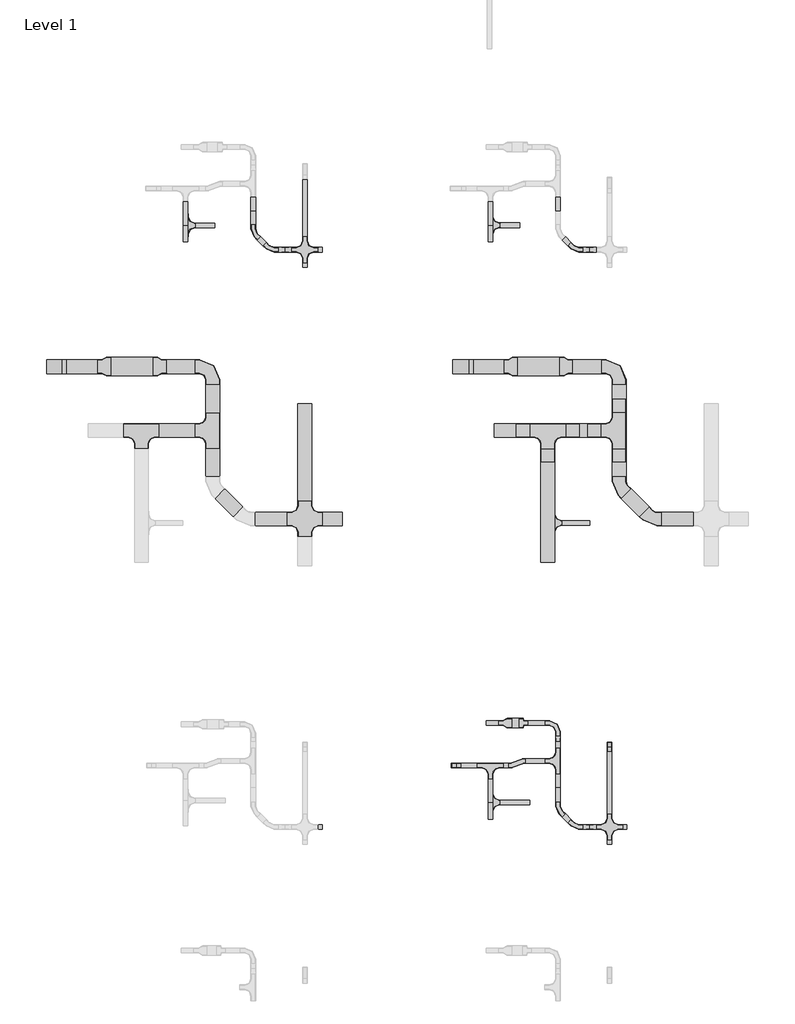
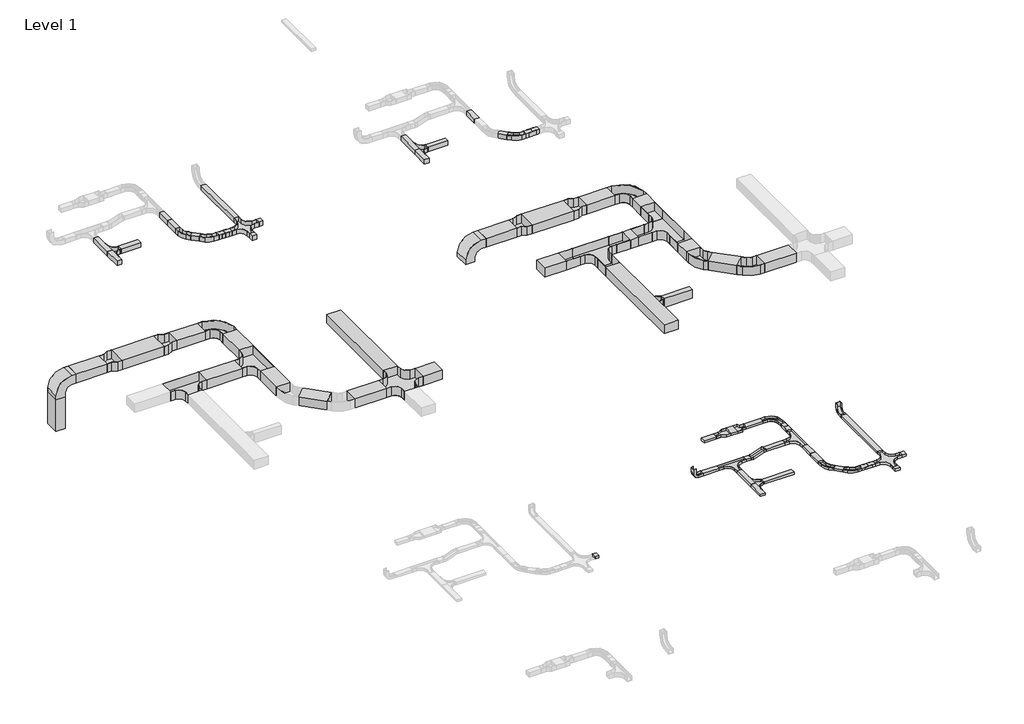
# One storey, part 6 of 7: 60 cable carrier segments, 44 cable carrier fittings.
"""IFC4 building model written with IfcOpenShell, lengths in millimetres."""

from ifc_helpers import new_model, si_unit, frame, origin, origin_with_axes, place, context, project, spatial, polyline, outline, extrude, transform, mapped, element, save
from components import cable_carrier_fitting_aaacfa07, cable_carrier_fitting_b0ef1419, cable_carrier_fitting_b06f5239, cable_carrier_fitting_c29a8226, cable_carrier_fitting_143960b7, cable_carrier_fitting_a196cc36, cable_carrier_fitting_4de17e9c, cable_carrier_fitting_7e9f8960, cable_carrier_fitting_9eb58628, cable_carrier_fitting_37f5b24e, cable_carrier_fitting_02b181c7, cable_carrier_fitting_d4cb8d73, cable_carrier_fitting_f591b558, cable_carrier_fitting_a9251f7c, cable_carrier_fitting_6664680e, cable_carrier_fitting_eaf42c59, cable_carrier_fitting_cb4cf4fc, cable_carrier_fitting_d9c8c3b4, cable_carrier_fitting_4019ad99, cable_carrier_fitting_a17deca8, cable_carrier_fitting_91e97af7, cable_carrier_fitting_0d8af748, cable_carrier_fitting_106d96d6, rkh50_caab6538

model = new_model("IFC4")

# Units and contexts
model_context = context("Model", 3, world=origin())
ifc_project = project(units=[si_unit("LENGTHUNIT", "METRE", prefix="MILLI")], contexts=[model_context])

# Site, building, storey
site = spatial("IfcSite", under=ifc_project)
building = spatial("IfcBuilding", under=site)
storey = spatial("IfcBuildingStorey", under=building, Name="Level 1", Elevation=0.0)

# Cable carrier fittings
placement = place(None, origin())
cable_carrier_fitting_shape = cable_carrier_fitting_aaacfa07(model_context)
element("IfcCableCarrierFitting", 1, ObjectType="BAKS_Plate_connector : LZCH100", at=placement, inside=storey, context=model_context, shape_type="MappedRepresentation", body=[
    mapped(cable_carrier_fitting_shape, transform((-16681.6917019, 62708.6669458, 50.0), x_axis=(-1.0, 0.0, 0.0), y_axis=(0.0, -1.0, 0.0), z_axis=(0.0, 0.0, 1.0))),
])
element("IfcCableCarrierFitting", 2, ObjectType="BAKS_Plate_connector : LZCH100", at=placement, inside=storey, context=model_context, shape_type="MappedRepresentation", body=[
    mapped(cable_carrier_fitting_shape, transform((-10081.6917019, 62708.6669458, 50.0), x_axis=(-1.0, 0.0, 0.0), y_axis=(0.0, -1.0, 0.0), z_axis=(0.0, 0.0, 1.0))),
])
cable_carrier_fitting_2_shape = cable_carrier_fitting_b0ef1419(model_context)
element("IfcCableCarrierFitting", 3, ObjectType="BAKS_Plate_connector : LZCH50", at=placement, inside=storey, context=model_context, shape_type="MappedRepresentation", body=[
    mapped(cable_carrier_fitting_2_shape, transform((-10770.1659964, 52049.0221963, 50.0), x_axis=(0.0, -1.0, 0.0), y_axis=(1.0, 0.0, 0.0), z_axis=(0.0, 0.0, 1.0))),
])
element("IfcCableCarrierFitting", 4, ObjectType="BAKS_Plate_connector : LZCH50", at=placement, inside=storey, context=model_context, shape_type="MappedRepresentation", body=[
    mapped(cable_carrier_fitting_2_shape, transform((-10081.6917019, 50208.6669458, 50.0), x_axis=(-1.0, 0.0, 0.0), y_axis=(0.0, -1.0, 0.0), z_axis=(0.0, 0.0, 1.0))),
])
cable_carrier_fitting_3_shape = cable_carrier_fitting_b06f5239(model_context)
element("IfcCableCarrierFitting", 5, ObjectType="BAKS_Tee_TKZD : TKZDPH200", at=placement, inside=storey, context=model_context, shape_type="MappedRepresentation", body=[
    mapped(cable_carrier_fitting_3_shape, transform((-10842.1461338, 56790.6717205, 0.0), x_axis=(0.0, 1.0, 0.0), y_axis=(-1.0, 0.0, 0.0), z_axis=(0.0, 0.0, 1.0))),
])
cable_carrier_fitting_4_shape = cable_carrier_fitting_c29a8226(model_context)
element("IfcCableCarrierFitting", 6, ObjectType="BAKS_Tee_TKZD : TKZDPH50", at=placement, inside=storey, context=model_context, shape_type="MappedRepresentation", body=[
    mapped(cable_carrier_fitting_4_shape, transform((-12185.25983, 50739.4574237, 50.0), x_axis=(0.0, 1.0, 0.0), y_axis=(-1.0, 0.0, 0.0), z_axis=(0.0, 0.0, 1.0))),
])
cable_carrier_fitting_5_shape = cable_carrier_fitting_143960b7(model_context)
element("IfcCableCarrierFitting", 7, ObjectType="BAKS_Tee_TKZD : TKZDPH100", at=placement, inside=storey, context=model_context, shape_type="MappedRepresentation", body=[
    mapped(cable_carrier_fitting_5_shape, transform((-18785.25983, 63236.7469669, 50.0), x_axis=(0.0, 1.0, 0.0), y_axis=(-1.0, 0.0, 0.0), z_axis=(0.0, 0.0, 1.0))),
])
element("IfcCableCarrierFitting", 8, ObjectType="BAKS_Tee_TKZD : TKZDPH100", at=placement, inside=storey, context=model_context, shape_type="MappedRepresentation", body=[
    mapped(cable_carrier_fitting_5_shape, transform((-12185.25983, 63237.8311496, 50.0), x_axis=(0.0, 1.0, 0.0), y_axis=(-1.0, 0.0, 0.0), z_axis=(0.0, 0.0, 1.0))),
])
cable_carrier_fitting_6_shape = cable_carrier_fitting_a196cc36(model_context)
element("IfcCableCarrierFitting", 9, ObjectType="BAKS_Tee_TKZ : TKZCH50", at=placement, inside=storey, context=model_context, shape_type="MappedRepresentation", body=[
    mapped(cable_carrier_fitting_6_shape, transform((-12235.25983, 51536.0286879, 50.0), x_axis=(1.0, 0.0, 0.0), y_axis=(0.0, 1.0, 0.0), z_axis=(0.0, 0.0, 1.0))),
])
element("IfcCableCarrierFitting", 10, ObjectType="BAKS_Tee_TKZ : TKZCH50", at=placement, inside=storey, context=model_context, shape_type="MappedRepresentation", body=[
    mapped(cable_carrier_fitting_6_shape, transform((-10770.1659964, 51636.0286879, 50.0), x_axis=(0.0, -1.0, 0.0), y_axis=(1.0, 0.0, 0.0), z_axis=(0.0, 0.0, 1.0))),
])
cable_carrier_fitting_7_shape = cable_carrier_fitting_4de17e9c(model_context)
element("IfcCableCarrierFitting", 11, ObjectType="BAKS_Cross-section_CZKZ : CZKZCH50", at=placement, inside=storey, context=model_context, shape_type="MappedRepresentation", body=[
    mapped(cable_carrier_fitting_7_shape, transform((-9653.0791495, 50208.6669458, 50.0), x_axis=(-1.0, 0.0, 0.0), y_axis=(0.0, -1.0, 0.0), z_axis=(0.0, 0.0, 1.0))),
])
cable_carrier_fitting_8_shape = cable_carrier_fitting_7e9f8960(model_context)
element("IfcCableCarrierFitting", 12, ObjectType="BAKS_Cross-section_CZKZ : CZKZPH100", at=placement, inside=storey, context=model_context, shape_type="MappedRepresentation", body=[
    mapped(cable_carrier_fitting_8_shape, transform((-16253.0791495, 62708.6669458, 50.0), x_axis=(1.0, 0.0, 0.0), y_axis=(0.0, 1.0, 0.0), z_axis=(0.0, 0.0, 1.0))),
])
cable_carrier_fitting_9_shape = cable_carrier_fitting_9eb58628(model_context)
element("IfcCableCarrierFitting", 13, ObjectType="BAKS_Reduction-symmetrical_RKZ : RKZCH50", at=placement, inside=storey, context=model_context, shape_type="MappedRepresentation", body=[
    mapped(cable_carrier_fitting_9_shape, transform((-11765.6659964, 52457.0157047, 50.0), x_axis=(-1.0, 0.0, 0.0), y_axis=(0.0, -1.0, 0.0), z_axis=(0.0, 0.0, 1.0))),
])
cable_carrier_fitting_10_shape = cable_carrier_fitting_37f5b24e(model_context)
element("IfcCableCarrierFitting", 14, ObjectType="BAKS_Bypass_horizontal_left_OPZL : OPZLCH50", at=placement, inside=storey, context=model_context, shape_type="MappedRepresentation", body=[
    mapped(cable_carrier_fitting_10_shape, transform((-11655.25983, 51586.0286879, 25.0), x_axis=(1.0, 0.0, 0.0), y_axis=(0.0, 1.0, 0.0), z_axis=(0.0, 0.0, 1.0))),
])
cable_carrier_fitting_11_shape = cable_carrier_fitting_02b181c7(model_context)
element("IfcCableCarrierFitting", 15, ObjectType="BAKS_Elbow_KKZ : KKZC/KKZMC...H50", at=placement, inside=storey, context=model_context, shape_type="MappedRepresentation", body=[
    mapped(cable_carrier_fitting_11_shape, transform((-10399.0048312, 50208.6669458, 50.0), x_axis=(0.7071067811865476, -0.7071067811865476, 0.0), y_axis=(0.7071067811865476, 0.7071067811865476, 0.0), z_axis=(0.0, 0.0, 1.0))),
])
element("IfcCableCarrierFitting", 16, ObjectType="BAKS_Elbow_KKZ : KKZC/KKZMC...H50", at=placement, inside=storey, context=model_context, shape_type="MappedRepresentation", body=[
    mapped(cable_carrier_fitting_11_shape, transform((-10770.1659964, 50579.8281111, 50.0), x_axis=(0.0, -1.0, 0.0), y_axis=(1.0, 0.0, 0.0), z_axis=(0.0, 0.0, 1.0))),
])
cable_carrier_fitting_12_shape = cable_carrier_fitting_d4cb8d73(model_context)
element("IfcCableCarrierFitting", 17, ObjectType="BAKS_Elbow_KKZ : KKZP/KKZMP...H100", at=placement, inside=storey, context=model_context, shape_type="MappedRepresentation", body=[
    mapped(cable_carrier_fitting_12_shape, transform((-16999.0048312, 62708.6669458, 50.0), x_axis=(0.7071067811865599, -0.7071067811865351, 0.0), y_axis=(0.7071067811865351, 0.7071067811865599, 0.0), z_axis=(0.0, 0.0, 1.0))),
])
element("IfcCableCarrierFitting", 18, ObjectType="BAKS_Elbow_KKZ : KKZP/KKZMP...H100", at=placement, inside=storey, context=model_context, shape_type="MappedRepresentation", body=[
    mapped(cable_carrier_fitting_12_shape, transform((-17370.1659964, 63079.8281111, 50.0), x_axis=(0.0, -1.0, 0.0), y_axis=(1.0, 0.0, 0.0), z_axis=(0.0, 0.0, 1.0))),
])
element("IfcCableCarrierFitting", 19, ObjectType="BAKS_Elbow_KKZ : KKZC/KKZMC...H100", at=placement, inside=storey, context=model_context, shape_type="MappedRepresentation", body=[
    mapped(cable_carrier_fitting_12_shape, transform((-10399.0048312, 62708.6669458, 50.0), x_axis=(0.7071067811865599, -0.7071067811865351, 0.0), y_axis=(0.7071067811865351, 0.7071067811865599, 0.0), z_axis=(0.0, 0.0, 1.0))),
])
cable_carrier_fitting_13_shape = cable_carrier_fitting_f591b558(model_context)
element("IfcCableCarrierFitting", 20, ObjectType="BAKS_Elbow_KKZ : KKZC/KKZMC...H50", at=placement, inside=storey, context=model_context, shape_type="MappedRepresentation", body=[
    mapped(cable_carrier_fitting_13_shape, transform((-10770.1659964, 52457.0157047, 50.0), x_axis=(0.0, 1.0, 0.0), y_axis=(-1.0, 0.0, 0.0), z_axis=(0.0, 0.0, 1.0))),
])
cable_carrier_fitting_14_shape = cable_carrier_fitting_a9251f7c(model_context)
element("IfcCableCarrierFitting", 21, ObjectType="BAKS_Vertical_bend_int : LZWCH50/LZWMCH50", at=placement, inside=storey, context=model_context, shape_type="MappedRepresentation", body=[
    mapped(cable_carrier_fitting_14_shape, transform((-13052.5998175, 51536.0286879, 50.0), x_axis=(-1.0, 0.0, 0.0), y_axis=(0.0, 0.0, 1.0), z_axis=(0.0, 1.0, 0.0))),
])
element("IfcCableCarrierFitting", 22, ObjectType="BAKS_Vertical_bend_int : LZWCH50/LZWMCH50", at=placement, inside=storey, context=model_context, shape_type="MappedRepresentation", body=[
    mapped(cable_carrier_fitting_14_shape, transform((-9653.0791495, 52018.5286879, 50.0), x_axis=(0.0, 1.0, 0.0), y_axis=(0.0, 0.0, 1.0), z_axis=(1.0, 0.0, 0.0))),
])
cable_carrier_fitting_15_shape = cable_carrier_fitting_6664680e(model_context)
element("IfcCableCarrierFitting", 23, ObjectType="BAKS_Cross-section_CZKZ : CZKZPH200", at=placement, inside=storey, context=model_context, shape_type="MappedRepresentation", body=[
    mapped(cable_carrier_fitting_15_shape, transform((-16253.0791495, 56877.2563463, 50.0), x_axis=(1.0, 0.0, 0.0), y_axis=(0.0, 1.0, 0.0), z_axis=(0.0, 0.0, 1.0))),
])
cable_carrier_fitting_16_shape = cable_carrier_fitting_eaf42c59(model_context)
element("IfcCableCarrierFitting", 24, ObjectType="BAKS_Elbow_KKZ : KKZP/KKZMP...H200", at=placement, inside=storey, context=model_context, shape_type="MappedRepresentation", body=[
    mapped(cable_carrier_fitting_16_shape, transform((-18247.1461338, 60177.2890583, 50.0), x_axis=(0.0, 1.0, 0.0), y_axis=(-1.0, 0.0, 0.0), z_axis=(0.0, 0.0, 1.0))),
])
cable_carrier_fitting_17_shape = cable_carrier_fitting_cb4cf4fc(model_context)
element("IfcCableCarrierFitting", 25, ObjectType="BAKS_Reduction-symmetrical_RKZ : RKZPH200", at=placement, inside=storey, context=model_context, shape_type="MappedRepresentation", body=[
    mapped(cable_carrier_fitting_17_shape, transform((-19247.1461338, 60177.2890583, 50.0), x_axis=(-1.0, 0.0, 0.0), y_axis=(0.0, -1.0, 0.0), z_axis=(0.0, 0.0, 1.0))),
])
cable_carrier_fitting_18_shape = cable_carrier_fitting_d9c8c3b4(model_context)
element("IfcCableCarrierFitting", 26, ObjectType="BAKS_Reduction-symmetrical_RKZ : RKZPH200", at=placement, inside=storey, context=model_context, shape_type="MappedRepresentation", body=[
    mapped(cable_carrier_fitting_18_shape, transform((-20447.1461338, 60177.2890583, 50.0), x_axis=(-1.0, 0.0, 0.0), y_axis=(0.0, -1.0, 0.0), z_axis=(0.0, 0.0, 1.0))),
])
cable_carrier_fitting_19_shape = cable_carrier_fitting_4019ad99(model_context)
element("IfcCableCarrierFitting", 27, ObjectType="BAKS_Vertical_bend_int : LZWPH200/LZWMPH200", at=placement, inside=storey, context=model_context, shape_type="MappedRepresentation", body=[
    mapped(cable_carrier_fitting_19_shape, transform((-21747.1461338, 60177.2890583, 50.0), x_axis=(-1.0, 0.0, 0.0), y_axis=(0.0, 0.0, -1.0), z_axis=(0.0, -1.0, 0.0))),
])
element("IfcCableCarrierFitting", 28, ObjectType="BAKS_Vertical_bend_int : LZWPH200/LZWMPH200", at=placement, inside=storey, context=model_context, shape_type="MappedRepresentation", body=[
    mapped(cable_carrier_fitting_19_shape, transform((-12947.1461338, 60177.2890583, 50.0), x_axis=(-1.0, 0.0, 0.0), y_axis=(0.0, 0.0, -1.0), z_axis=(0.0, -1.0, 0.0))),
])
cable_carrier_fitting_20_shape = cable_carrier_fitting_a17deca8(model_context)
element("IfcCableCarrierFitting", 29, ObjectType="BAKS_Tee_TKZ : TKZPH200", at=placement, inside=storey, context=model_context, shape_type="MappedRepresentation", body=[
    mapped(cable_carrier_fitting_20_shape, transform((-18247.1461338, 58792.3500248, 50.0), x_axis=(0.0, -1.0, 0.0), y_axis=(1.0, 0.0, 0.0), z_axis=(0.0, 0.0, 1.0))),
])
element("IfcCableCarrierFitting", 30, ObjectType="BAKS_Tee_TKZ : TKZPH200", at=placement, inside=storey, context=model_context, shape_type="MappedRepresentation", body=[
    mapped(cable_carrier_fitting_20_shape, transform((-19792.1461338, 58792.3500248, 50.0), x_axis=(1.0, 0.0, 0.0), y_axis=(0.0, 1.0, 0.0), z_axis=(0.0, 0.0, 1.0))),
])
cable_carrier_fitting_21_shape = cable_carrier_fitting_91e97af7(model_context)
element("IfcCableCarrierFitting", 31, ObjectType="BAKS_Elbow_KKZ : KKZC/KKZMC...H200", at=placement, inside=storey, context=model_context, shape_type="MappedRepresentation", body=[
    mapped(cable_carrier_fitting_21_shape, transform((-8747.1134218, 56877.2563463, 50.0), x_axis=(0.7071067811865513, -0.7071067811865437, 0.0), y_axis=(0.7071067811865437, 0.7071067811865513, 0.0), z_axis=(0.0, 0.0, 1.0))),
])
element("IfcCableCarrierFitting", 32, ObjectType="BAKS_Elbow_KKZ : KKZC/KKZMC...H200", at=placement, inside=storey, context=model_context, shape_type="MappedRepresentation", body=[
    mapped(cable_carrier_fitting_21_shape, transform((-9447.1461338, 57577.2890583, 50.0), x_axis=(0.0, -1.0, 0.0), y_axis=(1.0, 0.0, 0.0), z_axis=(0.0, 0.0, 1.0))),
])
element("IfcCableCarrierFitting", 33, ObjectType="BAKS_Elbow_KKZ : KKZC/KKZMC...H200", at=placement, inside=storey, context=model_context, shape_type="MappedRepresentation", body=[
    mapped(cable_carrier_fitting_16_shape, transform((-9447.1461338, 60177.2890583, 50.0), x_axis=(0.0, 1.0, 0.0), y_axis=(-1.0, 0.0, 0.0), z_axis=(0.0, 0.0, 1.0))),
])
cable_carrier_fitting_22_shape = cable_carrier_fitting_0d8af748(model_context)
element("IfcCableCarrierFitting", 34, ObjectType="BAKS_Tee_TKZ : TKZCH200", at=placement, inside=storey, context=model_context, shape_type="MappedRepresentation", body=[
    mapped(cable_carrier_fitting_22_shape, transform((-9447.1461338, 58792.3500248, 50.0), x_axis=(0.0, -1.0, 0.0), y_axis=(1.0, 0.0, 0.0), z_axis=(0.0, 0.0, 1.0))),
])
element("IfcCableCarrierFitting", 35, ObjectType="BAKS_Tee_TKZ : TKZCH200", at=placement, inside=storey, context=model_context, shape_type="MappedRepresentation", body=[
    mapped(cable_carrier_fitting_22_shape, transform((-10992.1461338, 58792.3500248, 50.0), x_axis=(1.0, 0.0, 0.0), y_axis=(0.0, 1.0, 0.0), z_axis=(0.0, 0.0, 1.0))),
])
cable_carrier_fitting_23_shape = cable_carrier_fitting_106d96d6(model_context)
element("IfcCableCarrierFitting", 36, ObjectType="BAKS_Reduction-symmetrical_RKZ : RKZCH200", at=placement, inside=storey, context=model_context, shape_type="MappedRepresentation", body=[
    mapped(cable_carrier_fitting_23_shape, transform((-9447.1461338, 59182.3500248, 50.0), x_axis=(0.0, 1.0, 0.0), y_axis=(-1.0, 0.0, 0.0), z_axis=(0.0, 0.0, 1.0))),
])
element("IfcCableCarrierFitting", 37, ObjectType="BAKS_Reduction-symmetrical_RKZ : RKZCH200", at=placement, inside=storey, context=model_context, shape_type="MappedRepresentation", body=[
    mapped(cable_carrier_fitting_23_shape, transform((-9447.1461338, 58402.3500248, 50.0), x_axis=(0.0, -1.0, 0.0), y_axis=(1.0, 0.0, 0.0), z_axis=(0.0, 0.0, 1.0))),
])
element("IfcCableCarrierFitting", 38, ObjectType="BAKS_Reduction-symmetrical_RKZ : RKZCH200", at=placement, inside=storey, context=model_context, shape_type="MappedRepresentation", body=[
    mapped(cable_carrier_fitting_23_shape, transform((-9837.1461338, 58792.3500248, 50.0), x_axis=(-1.0, 0.0, 0.0), y_axis=(0.0, -1.0, 0.0), z_axis=(0.0, 0.0, 1.0))),
])
element("IfcCableCarrierFitting", 39, ObjectType="BAKS_Reduction-symmetrical_RKZ : RKZCH200", at=placement, inside=storey, context=model_context, shape_type="MappedRepresentation", body=[
    mapped(cable_carrier_fitting_23_shape, transform((-11382.1461338, 58792.3500248, 50.0), x_axis=(-1.0, 0.0, 0.0), y_axis=(0.0, -1.0, 0.0), z_axis=(0.0, 0.0, 1.0))),
])
element("IfcCableCarrierFitting", 40, ObjectType="BAKS_Reduction-symmetrical_RKZ : RKZCH200", at=placement, inside=storey, context=model_context, shape_type="MappedRepresentation", body=[
    mapped(cable_carrier_fitting_23_shape, transform((-10602.1461338, 58792.3500248, 50.0), x_axis=(1.0, 0.0, 0.0), y_axis=(0.0, 1.0, 0.0), z_axis=(0.0, 0.0, 1.0))),
])
element("IfcCableCarrierFitting", 41, ObjectType="BAKS_Reduction-symmetrical_RKZ : RKZCH200", at=placement, inside=storey, context=model_context, shape_type="MappedRepresentation", body=[
    mapped(cable_carrier_fitting_23_shape, transform((-10992.1461338, 58402.3500248, 50.0), x_axis=(0.0, -1.0, 0.0), y_axis=(1.0, 0.0, 0.0), z_axis=(0.0, 0.0, 1.0))),
])
element("IfcCableCarrierFitting", 42, ObjectType="BAKS_Reduction-symmetrical_RKZ : RKZCH200", at=placement, inside=storey, context=model_context, shape_type="MappedRepresentation", body=[
    mapped(cable_carrier_fitting_18_shape, transform((-11647.1461338, 60177.2890583, 50.0), x_axis=(-1.0, 0.0, 0.0), y_axis=(0.0, -1.0, 0.0), z_axis=(0.0, 0.0, 1.0))),
])
element("IfcCableCarrierFitting", 43, ObjectType="BAKS_Reduction-symmetrical_RKZ : RKZCH200", at=placement, inside=storey, context=model_context, shape_type="MappedRepresentation", body=[
    mapped(cable_carrier_fitting_17_shape, transform((-10447.1461338, 60177.2890583, 50.0), x_axis=(-1.0, 0.0, 0.0), y_axis=(0.0, -1.0, 0.0), z_axis=(0.0, 0.0, 1.0))),
])
rkh50_shape = rkh50_caab6538(model_context)
element("IfcCableCarrierFitting", 44, ObjectType="BAKS_Reduction-angular_RK : RKH50", at=placement, inside=storey, context=model_context, shape_type="MappedRepresentation", body=[
    mapped(rkh50_shape, transform((-11626.3397935, 52457.0157047, 50.0), x_axis=(1.0, 0.0, 0.0), y_axis=(0.0, 1.0, 0.0), z_axis=(0.0, 0.0, 1.0))),
])

# Cable carrier segments
element("IfcCableCarrierSegment", 45, ObjectType="BAKS - Reinforced cable tray H100 (KZWP)", at=placement, inside=storey, context=model_context, shape_type="SweptSolid", body=[
    extrude(outline(polyline([(-18885.25983, 63746.0286879), (-18785.25983, 63746.0286879), (-18785.25983, 63237.2890583), (-18885.25983, 63237.2890583), (-18885.25983, 63746.0286879)])), origin_with_axes(), (0.0, 0.0, 1.0), 100.0),
])
element("IfcCableCarrierSegment", 46, ObjectType="BAKS - Reinforced cable tray H100 (KZWP)", at=placement, inside=storey, context=model_context, shape_type="SweptSolid", body=[
    extrude(outline(polyline([(-18885.25983, 63236.2048756), (-18785.25983, 63236.2048756), (-18785.25983, 62877.2890583), (-18885.25983, 62877.2890583), (-18885.25983, 63236.2048756)])), origin_with_axes(), (0.0, 0.0, 1.0), 100.0),
])
element("IfcCableCarrierSegment", 47, ObjectType="BAKS - Cable tray H100 (KZC)", at=placement, inside=storey, context=model_context, shape_type="SweptSolid", body=[
    extrude(outline(polyline([(-12285.25983, 63746.0286879), (-12185.25983, 63746.0286879), (-12185.25983, 63238.373241), (-12285.25983, 63238.373241), (-12285.25983, 63746.0286879)])), origin_with_axes(), (0.0, 0.0, 1.0), 100.0),
])
element("IfcCableCarrierSegment", 48, ObjectType="BAKS - Cable tray H100 (KZC)", at=placement, inside=storey, context=model_context, shape_type="SweptSolid", body=[
    extrude(outline(polyline([(-12285.25983, 63237.2890583), (-12185.25983, 63237.2890583), (-12185.25983, 62877.2890583), (-12285.25983, 62877.2890583), (-12285.25983, 63237.2890583)])), origin_with_axes(), (0.0, 0.0, 1.0), 100.0),
])
element("IfcCableCarrierSegment", 49, ObjectType="BAKS - Cable tray with welded connector H50 (KZLC)", at=placement, inside=storey, context=model_context, shape_type="SweptSolid", body=[
    extrude(outline(polyline([(-11626.3397935, 52557.0157047), (-11626.3397935, 52357.0157047), (-11765.6659964, 52357.0157047), (-11765.6659964, 52557.0157047), (-11626.3397935, 52557.0157047)])), frame((0.0, 0.0, 25.0), z_axis=(0.0, 0.0, 1.0), x_axis=(1.0, 0.0, 0.0)), (0.0, 0.0, 1.0), 50.0),
])
element("IfcCableCarrierSegment", 50, ObjectType="BAKS - Cable tray with welded connector H50 (KZLC)", at=placement, inside=storey, context=model_context, shape_type="SweptSolid", body=[
    extrude(outline(polyline([(-12065.6659964, 52507.0157047), (-12065.6659964, 52407.0157047), (-12324.6659964, 52407.0157047), (-12324.6659964, 52507.0157047), (-12065.6659964, 52507.0157047)])), frame((0.0, 0.0, 25.0), z_axis=(0.0, 0.0, 1.0), x_axis=(1.0, 0.0, 0.0)), (0.0, 0.0, 1.0), 50.0),
])
element("IfcCableCarrierSegment", 51, ObjectType="BAKS - Cable tray with welded connector H50 (KZLC)", at=placement, inside=storey, context=model_context, shape_type="SweptSolid", body=[
    extrude(outline(polyline([(-11845.25983, 51586.0286879), (-11845.25983, 51486.0286879), (-11945.25983, 51486.0286879), (-11945.25983, 51586.0286879), (-11845.25983, 51586.0286879)])), frame((0.0, 0.0, 25.0), z_axis=(0.0, 0.0, 1.0), x_axis=(1.0, 0.0, 0.0)), (0.0, 0.0, 1.0), 50.0),
])
element("IfcCableCarrierSegment", 52, ObjectType="BAKS - Cable tray with welded connector H50 (KZLC)", at=placement, inside=storey, context=model_context, shape_type="SweptSolid", body=[
    extrude(outline(polyline([(-12525.25983, 51586.0286879), (-12525.25983, 51486.0286879), (-12867.5998175, 51486.0286879), (-12867.5998175, 51586.0286879), (-12525.25983, 51586.0286879)])), frame((0.0, 0.0, 25.0), z_axis=(0.0, 0.0, 1.0), x_axis=(1.0, 0.0, 0.0)), (0.0, 0.0, 1.0), 50.0),
])
element("IfcCableCarrierSegment", 53, ObjectType="BAKS - Cable tray with welded connector H50 (KZLC)", at=placement, inside=storey, context=model_context, shape_type="SweptSolid", body=[
    extrude(outline(polyline([(-12285.25983, 51246.0286879), (-12185.25983, 51246.0286879), (-12185.25983, 50739.999515), (-12285.25983, 50739.999515), (-12285.25983, 51246.0286879)])), frame((0.0, 0.0, 25.0), z_axis=(0.0, 0.0, 1.0), x_axis=(1.0, 0.0, 0.0)), (0.0, 0.0, 1.0), 50.0),
])
element("IfcCableCarrierSegment", 54, ObjectType="BAKS - Cable tray with welded connector H50 (KZLC)", at=placement, inside=storey, context=model_context, shape_type="SweptSolid", body=[
    extrude(outline(polyline([(-12285.25983, 50738.9153323), (-12185.25983, 50738.9153323), (-12185.25983, 50377.2890583), (-12285.25983, 50377.2890583), (-12285.25983, 50738.9153323)])), frame((0.0, 0.0, 25.0), z_axis=(0.0, 0.0, 1.0), x_axis=(1.0, 0.0, 0.0)), (0.0, 0.0, 1.0), 50.0),
])
element("IfcCableCarrierSegment", 55, ObjectType="BAKS - Reinforced cable tray H100 (KZWP)", at=placement, inside=storey, context=model_context, shape_type="SweptSolid", body=[
    extrude(outline(polyline([(-17420.1659964, 63846.0286879), (-17320.1659964, 63846.0286879), (-17320.1659964, 63553.2786879), (-17420.1659964, 63553.2786879), (-17420.1659964, 63846.0286879)])), origin_with_axes(), (0.0, 0.0, 1.0), 100.0),
])
element("IfcCableCarrierSegment", 56, ObjectType="BAKS - Reinforced cable tray H100 (KZWP)", at=placement, inside=storey, context=model_context, shape_type="SweptSolid", body=[
    extrude(outline(polyline([(-16543.0791495, 62758.6669458), (-16543.0791495, 62658.6669458), (-16681.6917019, 62658.6669458), (-16681.6917019, 62758.6669458), (-16543.0791495, 62758.6669458)])), origin_with_axes(), (0.0, 0.0, 1.0), 100.0),
])
element("IfcCableCarrierSegment", 57, ObjectType="BAKS - Reinforced cable tray H100 (KZWP)", at=placement, inside=storey, context=model_context, shape_type="SweptSolid", body=[
    extrude(outline(polyline([(-16682.6917019, 62758.6669458), (-16682.6917019, 62658.6669458), (-16820.3042544, 62658.6669458), (-16820.3042544, 62758.6669458), (-16682.6917019, 62758.6669458)])), origin_with_axes(), (0.0, 0.0, 1.0), 100.0),
])
element("IfcCableCarrierSegment", 58, ObjectType="BAKS - Reinforced cable tray H100 (KZWP)", at=placement, inside=storey, context=model_context, shape_type="SweptSolid", body=[
    extrude(outline(polyline([(-17090.0098818, 62870.3826746), (-17160.72056, 62799.6719965), (-17279.1609458, 62918.1123823), (-17208.4502677, 62988.8230604), (-17090.0098818, 62870.3826746)])), origin_with_axes(), (0.0, 0.0, 1.0), 100.0),
])
element("IfcCableCarrierSegment", 59, ObjectType="BAKS - Reinforced cable tray H100 (KZWP)", at=placement, inside=storey, context=model_context, shape_type="SweptSolid", body=[
    extrude(outline(polyline([(-17320.1659964, 63258.5286879), (-17420.1659964, 63258.5286879), (-17420.1659964, 63552.2786879), (-17320.1659964, 63552.2786879), (-17320.1659964, 63258.5286879)])), origin_with_axes(), (0.0, 0.0, 1.0), 100.0),
])
element("IfcCableCarrierSegment", 60, ObjectType="BAKS - Reinforced cable tray H100 (KZWP)", at=placement, inside=storey, context=model_context, shape_type="SweptSolid", body=[
    extrude(outline(polyline([(-15878.9791495, 62758.6669458), (-15878.9791495, 62658.6669458), (-15963.0791495, 62658.6669458), (-15963.0791495, 62758.6669458), (-15878.9791495, 62758.6669458)])), origin_with_axes(), (0.0, 0.0, 1.0), 100.0),
])
element("IfcCableCarrierSegment", 61, ObjectType="BAKS - Reinforced cable tray H100 (KZWP)", at=placement, inside=storey, context=model_context, shape_type="SweptSolid", body=[
    extrude(outline(polyline([(-16203.0791495, 62328.6669458), (-16303.0791495, 62328.6669458), (-16303.0791495, 62418.6669458), (-16203.0791495, 62418.6669458), (-16203.0791495, 62328.6669458)])), origin_with_axes(), (0.0, 0.0, 1.0), 100.0),
])
element("IfcCableCarrierSegment", 62, ObjectType="BAKS - Reinforced cable tray H100 (KZWP)", at=placement, inside=storey, context=model_context, shape_type="SweptSolid", body=[
    extrude(outline(polyline([(-16303.0791495, 64228.5286879), (-16203.0791495, 64228.5286879), (-16203.0791495, 62998.6669458), (-16303.0791495, 62998.6669458), (-16303.0791495, 64228.5286879)])), origin_with_axes(), (0.0, 0.0, 1.0), 100.0),
])
element("IfcCableCarrierSegment", 63, ObjectType="BAKS - Cable tray H100 (KZC)", at=placement, inside=storey, context=model_context, shape_type="SweptSolid", body=[
    extrude(outline(polyline([(-10820.1659964, 63846.0286879), (-10720.1659964, 63846.0286879), (-10720.1659964, 63553.2786879), (-10820.1659964, 63553.2786879), (-10820.1659964, 63846.0286879)])), origin_with_axes(), (0.0, 0.0, 1.0), 100.0),
])
element("IfcCableCarrierSegment", 64, ObjectType="BAKS - Cable tray H100 (KZC)", at=placement, inside=storey, context=model_context, shape_type="SweptSolid", body=[
    extrude(outline(polyline([(-9943.0791495, 62758.6669458), (-9943.0791495, 62658.6669458), (-10081.6917019, 62658.6669458), (-10081.6917019, 62758.6669458), (-9943.0791495, 62758.6669458)])), origin_with_axes(), (0.0, 0.0, 1.0), 100.0),
])
element("IfcCableCarrierSegment", 65, ObjectType="BAKS - Cable tray H100 (KZC)", at=placement, inside=storey, context=model_context, shape_type="SweptSolid", body=[
    extrude(outline(polyline([(-10082.6917019, 62758.6669458), (-10082.6917019, 62658.6669458), (-10220.3042544, 62658.6669458), (-10220.3042544, 62758.6669458), (-10082.6917019, 62758.6669458)])), origin_with_axes(), (0.0, 0.0, 1.0), 100.0),
])
element("IfcCableCarrierSegment", 66, ObjectType="BAKS - Cable tray H100 (KZC)", at=placement, inside=storey, context=model_context, shape_type="SweptSolid", body=[
    extrude(outline(polyline([(-10490.0098818, 62870.3826746), (-10560.72056, 62799.6719965), (-10679.1609458, 62918.1123823), (-10608.4502677, 62988.8230604), (-10490.0098818, 62870.3826746)])), origin_with_axes(), (0.0, 0.0, 1.0), 100.0),
])
element("IfcCableCarrierSegment", 67, ObjectType="BAKS - Cable tray with welded connector H50 (KZLP)", at=placement, inside=storey, context=model_context, shape_type="SweptSolid", body=[
    extrude(outline(polyline([(-15879.0048312, 50258.6669458), (-15879.0048312, 50158.6669458), (-15963.0791495, 50158.6669458), (-15963.0791495, 50258.6669458), (-15879.0048312, 50258.6669458)])), frame((0.0, 0.0, 25.0), z_axis=(0.0, 0.0, 1.0), x_axis=(1.0, 0.0, 0.0)), (0.0, 0.0, 1.0), 50.0),
])
element("IfcCableCarrierSegment", 68, ObjectType="BAKS - Cable tray with welded connector H50 (KZLC)", at=placement, inside=storey, context=model_context, shape_type="SweptSolid", body=[
    extrude(outline(polyline([(-10820.1659964, 51346.0286879), (-10720.1659964, 51346.0286879), (-10720.1659964, 51053.2786879), (-10820.1659964, 51053.2786879), (-10820.1659964, 51346.0286879)])), frame((0.0, 0.0, 25.0), z_axis=(0.0, 0.0, 1.0), x_axis=(1.0, 0.0, 0.0)), (0.0, 0.0, 1.0), 50.0),
])
element("IfcCableCarrierSegment", 69, ObjectType="BAKS - Cable tray with welded connector H50 (KZLC)", at=placement, inside=storey, context=model_context, shape_type="SweptSolid", body=[
    extrude(outline(polyline([(-9943.0791495, 50258.6669458), (-9943.0791495, 50158.6669458), (-10081.6917019, 50158.6669458), (-10081.6917019, 50258.6669458), (-9943.0791495, 50258.6669458)])), frame((0.0, 0.0, 25.0), z_axis=(0.0, 0.0, 1.0), x_axis=(1.0, 0.0, 0.0)), (0.0, 0.0, 1.0), 50.0),
])
element("IfcCableCarrierSegment", 70, ObjectType="BAKS - Cable tray with welded connector H50 (KZLC)", at=placement, inside=storey, context=model_context, shape_type="SweptSolid", body=[
    extrude(outline(polyline([(-10082.6917019, 50258.6669458), (-10082.6917019, 50158.6669458), (-10220.3042544, 50158.6669458), (-10220.3042544, 50258.6669458), (-10082.6917019, 50258.6669458)])), frame((0.0, 0.0, 25.0), z_axis=(0.0, 0.0, 1.0), x_axis=(1.0, 0.0, 0.0)), (0.0, 0.0, 1.0), 50.0),
])
element("IfcCableCarrierSegment", 71, ObjectType="BAKS - Cable tray with welded connector H50 (KZLC)", at=placement, inside=storey, context=model_context, shape_type="SweptSolid", body=[
    extrude(outline(polyline([(-10490.0098818, 50370.3826746), (-10560.72056, 50299.6719965), (-10679.1609458, 50418.1123823), (-10608.4502677, 50488.8230604), (-10490.0098818, 50370.3826746)])), frame((0.0, 0.0, 25.0), z_axis=(0.0, 0.0, 1.0), x_axis=(1.0, 0.0, 0.0)), (0.0, 0.0, 1.0), 50.0),
])
element("IfcCableCarrierSegment", 72, ObjectType="BAKS - Cable tray with welded connector H50 (KZLC)", at=placement, inside=storey, context=model_context, shape_type="SweptSolid", body=[
    extrude(outline(polyline([(-10720.1659964, 50758.5286879), (-10820.1659964, 50758.5286879), (-10820.1659964, 51052.2786879), (-10720.1659964, 51052.2786879), (-10720.1659964, 50758.5286879)])), frame((0.0, 0.0, 25.0), z_axis=(0.0, 0.0, 1.0), x_axis=(1.0, 0.0, 0.0)), (0.0, 0.0, 1.0), 50.0),
])
element("IfcCableCarrierSegment", 73, ObjectType="BAKS - Cable tray with welded connector H50 (KZLC)", at=placement, inside=storey, context=model_context, shape_type="SweptSolid", body=[
    extrude(outline(polyline([(-11416.3397935, 52407.0157047), (-11416.3397935, 52507.0157047), (-11060.1659964, 52507.0157047), (-11060.1659964, 52407.0157047), (-11416.3397935, 52407.0157047)])), frame((0.0, 0.0, 25.0), z_axis=(0.0, 0.0, 1.0), x_axis=(1.0, 0.0, 0.0)), (0.0, 0.0, 1.0), 50.0),
])
element("IfcCableCarrierSegment", 74, ObjectType="BAKS - Cable tray with welded connector H50 (KZLC)", at=placement, inside=storey, context=model_context, shape_type="SweptSolid", body=[
    extrude(outline(polyline([(-10820.1659964, 52167.0157047), (-10720.1659964, 52167.0157047), (-10720.1659964, 52049.0221963), (-10820.1659964, 52049.0221963), (-10820.1659964, 52167.0157047)])), frame((0.0, 0.0, 25.0), z_axis=(0.0, 0.0, 1.0), x_axis=(1.0, 0.0, 0.0)), (0.0, 0.0, 1.0), 50.0),
])
element("IfcCableCarrierSegment", 75, ObjectType="BAKS - Cable tray with welded connector H50 (KZLC)", at=placement, inside=storey, context=model_context, shape_type="SweptSolid", body=[
    extrude(outline(polyline([(-11465.25983, 51586.0286879), (-11465.25983, 51686.0286879), (-11060.1659964, 51686.0286879), (-11060.1659964, 51586.0286879), (-11465.25983, 51586.0286879)])), frame((0.0, 0.0, 25.0), z_axis=(0.0, 0.0, 1.0), x_axis=(1.0, 0.0, 0.0)), (0.0, 0.0, 1.0), 50.0),
])
element("IfcCableCarrierSegment", 76, ObjectType="BAKS - Cable tray with welded connector H50 (KZLC)", at=placement, inside=storey, context=model_context, shape_type="SweptSolid", body=[
    extrude(outline(polyline([(-9279.0048312, 50258.6669458), (-9279.0048312, 50158.6669458), (-9363.0791495, 50158.6669458), (-9363.0791495, 50258.6669458), (-9279.0048312, 50258.6669458)])), frame((0.0, 0.0, 25.0), z_axis=(0.0, 0.0, 1.0), x_axis=(1.0, 0.0, 0.0)), (0.0, 0.0, 1.0), 50.0),
])
element("IfcCableCarrierSegment", 77, ObjectType="BAKS - Cable tray with welded connector H50 (KZLC)", at=placement, inside=storey, context=model_context, shape_type="SweptSolid", body=[
    extrude(outline(polyline([(-9703.0791495, 51833.5286879), (-9603.0791495, 51833.5286879), (-9603.0791495, 50498.6669458), (-9703.0791495, 50498.6669458), (-9703.0791495, 51833.5286879)])), frame((0.0, 0.0, 25.0), z_axis=(0.0, 0.0, 1.0), x_axis=(1.0, 0.0, 0.0)), (0.0, 0.0, 1.0), 50.0),
])
element("IfcCableCarrierSegment", 78, ObjectType="BAKS - Cable tray with welded connector H50 (KZLC)", at=placement, inside=storey, context=model_context, shape_type="SweptSolid", body=[
    extrude(outline(polyline([(-9603.0791495, 49828.6910816), (-9703.0791495, 49828.6910816), (-9703.0791495, 49918.6669458), (-9603.0791495, 49918.6669458), (-9603.0791495, 49828.6910816)])), frame((0.0, 0.0, 25.0), z_axis=(0.0, 0.0, 1.0), x_axis=(1.0, 0.0, 0.0)), (0.0, 0.0, 1.0), 50.0),
])
element("IfcCableCarrierSegment", 79, ObjectType="BAKS - Cable tray with welded connector H50 (KZLC)", at=placement, inside=storey, context=model_context, shape_type="SweptSolid", body=[
    extrude(outline(polyline([(-10720.1659964, 51926.0286879), (-10820.1659964, 51926.0286879), (-10820.1659964, 52048.0221963), (-10720.1659964, 52048.0221963), (-10720.1659964, 51926.0286879)])), frame((0.0, 0.0, 25.0), z_axis=(0.0, 0.0, 1.0), x_axis=(1.0, 0.0, 0.0)), (0.0, 0.0, 1.0), 50.0),
])
element("IfcCableCarrierSegment", 80, ObjectType="BAKS - Reinforced cable tray H100 (KZWP)", at=placement, inside=storey, context=model_context, shape_type="SweptSolid", body=[
    extrude(outline(polyline([(-18620.17983, 63186.7469669), (-18620.17983, 63286.7469669), (-18200.17983, 63286.7469669), (-18200.17983, 63186.7469669), (-18620.17983, 63186.7469669)])), origin_with_axes(), (0.0, 0.0, 1.0), 100.0),
])
element("IfcCableCarrierSegment", 81, ObjectType="BAKS - Cable tray H100 (KZC)", at=placement, inside=storey, context=model_context, shape_type="SweptSolid", body=[
    extrude(outline(polyline([(-12020.17983, 63187.8311496), (-12020.17983, 63287.8311496), (-11600.17983, 63287.8311496), (-11600.17983, 63187.8311496), (-12020.17983, 63187.8311496)])), origin_with_axes(), (0.0, 0.0, 1.0), 100.0),
])
element("IfcCableCarrierSegment", 82, ObjectType="BAKS - Cable tray with welded connector H50 (KZLC)", at=placement, inside=storey, context=model_context, shape_type="SweptSolid", body=[
    extrude(outline(polyline([(-12020.17983, 50689.4574237), (-12020.17983, 50789.4574237), (-11382.25983, 50789.4574237), (-11382.25983, 50689.4574237), (-12020.17983, 50689.4574237)])), frame((0.0, 0.0, 25.0), z_axis=(0.0, 0.0, 1.0), x_axis=(1.0, 0.0, 0.0)), (0.0, 0.0, 1.0), 50.0),
])
element("IfcCableCarrierSegment", 83, ObjectType="BAKS - Cable tray H200 (KZP)", at=placement, inside=storey, context=model_context, shape_type="SweptSolid", body=[
    extrude(outline(polyline([(-15447.1134218, 57027.2563463), (-15447.1134218, 56727.2563463), (-15863.0791495, 56727.2563463), (-15863.0791495, 57027.2563463), (-15447.1134218, 57027.2563463)])), frame((0.0, 0.0, -50.0), z_axis=(0.0, 0.0, 1.0), x_axis=(1.0, 0.0, 0.0)), (0.0, 0.0, 1.0), 200.0),
])
element("IfcCableCarrierSegment", 84, ObjectType="BAKS - Cable tray H200 (KZP)", at=placement, inside=storey, context=model_context, shape_type="SweptSolid", body=[
    extrude(outline(polyline([(-16403.0791495, 59368.7487616), (-16103.0791495, 59368.7487616), (-16103.0791495, 57267.2563463), (-16403.0791495, 57267.2563463), (-16403.0791495, 59368.7487616)])), frame((0.0, 0.0, -50.0), z_axis=(0.0, 0.0, 1.0), x_axis=(1.0, 0.0, 0.0)), (0.0, 0.0, 1.0), 200.0),
])
element("IfcCableCarrierSegment", 85, ObjectType="BAKS - Cable tray H200 (KZP)", at=placement, inside=storey, context=model_context, shape_type="SweptSolid", body=[
    extrude(outline(polyline([(-16643.0791495, 57027.2563463), (-16643.0791495, 56727.2563463), (-17326.9914888, 56727.2563463), (-17326.9914888, 57027.2563463), (-16643.0791495, 57027.2563463)])), frame((0.0, 0.0, -50.0), z_axis=(0.0, 0.0, 1.0), x_axis=(1.0, 0.0, 0.0)), (0.0, 0.0, 1.0), 200.0),
])
element("IfcCableCarrierSegment", 86, ObjectType="BAKS - Cable tray H200 (KZP)", at=placement, inside=storey, context=model_context, shape_type="SweptSolid", body=[
    extrude(outline(polyline([(-17596.6971162, 57138.972075), (-17808.8291506, 56926.8400407), (-18197.5624394, 57315.5733295), (-17985.4304051, 57527.7053639), (-17596.6971162, 57138.972075)])), frame((0.0, 0.0, -50.0), z_axis=(0.0, 0.0, 1.0), x_axis=(1.0, 0.0, 0.0)), (0.0, 0.0, 1.0), 200.0),
])
element("IfcCableCarrierSegment", 87, ObjectType="BAKS - Cable tray H200 (KZP)", at=placement, inside=storey, context=model_context, shape_type="SweptSolid", body=[
    extrude(outline(polyline([(-18097.1461338, 59182.3500248), (-18397.1461338, 59182.3500248), (-18397.1461338, 59787.2890583), (-18097.1461338, 59787.2890583), (-18097.1461338, 59182.3500248)])), frame((0.0, 0.0, -50.0), z_axis=(0.0, 0.0, 1.0), x_axis=(1.0, 0.0, 0.0)), (0.0, 0.0, 1.0), 200.0),
])
element("IfcCableCarrierSegment", 88, ObjectType="BAKS - Cable tray H200 (KZP)", at=placement, inside=storey, context=model_context, shape_type="SweptSolid", body=[
    extrude(outline(polyline([(-18637.1461338, 60327.2890583), (-18637.1461338, 60027.2890583), (-19247.1461338, 60027.2890583), (-19247.1461338, 60327.2890583), (-18637.1461338, 60327.2890583)])), frame((0.0, 0.0, -50.0), z_axis=(0.0, 0.0, 1.0), x_axis=(1.0, 0.0, 0.0)), (0.0, 0.0, 1.0), 200.0),
])
element("IfcCableCarrierSegment", 89, ObjectType="BAKS - Cable tray H200 (KZP)", at=placement, inside=storey, context=model_context, shape_type="SweptSolid", body=[
    extrude(outline(polyline([(-19547.1461338, 60377.2890583), (-19547.1461338, 59977.2890583), (-20447.1461338, 59977.2890583), (-20447.1461338, 60377.2890583), (-19547.1461338, 60377.2890583)])), frame((0.0, 0.0, -50.0), z_axis=(0.0, 0.0, 1.0), x_axis=(1.0, 0.0, 0.0)), (0.0, 0.0, 1.0), 200.0),
])
element("IfcCableCarrierSegment", 90, ObjectType="BAKS - Cable tray H200 (KZP)", at=placement, inside=storey, context=model_context, shape_type="SweptSolid", body=[
    extrude(outline(polyline([(-20747.1461338, 60327.2890583), (-20747.1461338, 60027.2890583), (-21407.1461338, 60027.2890583), (-21407.1461338, 60327.2890583), (-20747.1461338, 60327.2890583)])), frame((0.0, 0.0, -50.0), z_axis=(0.0, 0.0, 1.0), x_axis=(1.0, 0.0, 0.0)), (0.0, 0.0, 1.0), 200.0),
])
element("IfcCableCarrierSegment", 91, ObjectType="BAKS - Cable tray H200 (KZP)", at=placement, inside=storey, context=model_context, shape_type="SweptSolid", body=[
    extrude(outline(polyline([(-21647.1461338, 60027.2890583), (-21847.1461338, 60027.2890583), (-21847.1461338, 60327.2890583), (-21647.1461338, 60327.2890583), (-21647.1461338, 60027.2890583)])), frame((0.0, 0.0, -1000.0), z_axis=(0.0, 0.0, 1.0), x_axis=(1.0, 0.0, 0.0)), (0.0, 0.0, 1.0), 710.0),
])
element("IfcCableCarrierSegment", 92, ObjectType="BAKS - Cable tray H200 (KZP)", at=placement, inside=storey, context=model_context, shape_type="SweptSolid", body=[
    extrude(outline(polyline([(-18097.1461338, 57797.4109914), (-18397.1461338, 57797.4109914), (-18397.1461338, 58402.3500248), (-18097.1461338, 58402.3500248), (-18097.1461338, 57797.4109914)])), frame((0.0, 0.0, -50.0), z_axis=(0.0, 0.0, 1.0), x_axis=(1.0, 0.0, 0.0)), (0.0, 0.0, 1.0), 200.0),
])
element("IfcCableCarrierSegment", 93, ObjectType="BAKS - Cable tray H200 (KZP)", at=placement, inside=storey, context=model_context, shape_type="SweptSolid", body=[
    extrude(outline(polyline([(-18637.1461338, 58942.3500248), (-18637.1461338, 58642.3500248), (-19402.1461338, 58642.3500248), (-19402.1461338, 58942.3500248), (-18637.1461338, 58942.3500248)])), frame((0.0, 0.0, -50.0), z_axis=(0.0, 0.0, 1.0), x_axis=(1.0, 0.0, 0.0)), (0.0, 0.0, 1.0), 200.0),
])
element("IfcCableCarrierSegment", 94, ObjectType="BAKS - Cable tray H200 (KZC)", at=placement, inside=storey, context=model_context, shape_type="SweptSolid", body=[
    extrude(outline(polyline([(-10679.1461338, 56740.6717205), (-10679.1461338, 56840.6717205), (-10079.1461338, 56840.6717205), (-10079.1461338, 56740.6717205), (-10679.1461338, 56740.6717205)])), frame((0.0, 0.0, -100.0), z_axis=(0.0, 0.0, 1.0), x_axis=(1.0, 0.0, 0.0)), (0.0, 0.0, 1.0), 200.0),
])
element("IfcCableCarrierSegment", 95, ObjectType="BAKS - Cable tray H200 (KZC)", at=placement, inside=storey, context=model_context, shape_type="SweptSolid", body=[
    extrude(outline(polyline([(-7843.0791495, 57027.2563463), (-7843.0791495, 56727.2563463), (-8526.9914888, 56727.2563463), (-8526.9914888, 57027.2563463), (-7843.0791495, 57027.2563463)])), frame((0.0, 0.0, -50.0), z_axis=(0.0, 0.0, 1.0), x_axis=(1.0, 0.0, 0.0)), (0.0, 0.0, 1.0), 200.0),
])
element("IfcCableCarrierSegment", 96, ObjectType="BAKS - Cable tray H200 (KZC)", at=placement, inside=storey, context=model_context, shape_type="SweptSolid", body=[
    extrude(outline(polyline([(-8796.6971162, 57138.972075), (-9008.8291506, 56926.8400407), (-9397.5624394, 57315.5733295), (-9185.4304051, 57527.7053639), (-8796.6971162, 57138.972075)])), frame((0.0, 0.0, -50.0), z_axis=(0.0, 0.0, 1.0), x_axis=(1.0, 0.0, 0.0)), (0.0, 0.0, 1.0), 200.0),
])
element("IfcCableCarrierSegment", 97, ObjectType="BAKS - Cable tray H200 (KZC)", at=placement, inside=storey, context=model_context, shape_type="SweptSolid", body=[
    extrude(outline(polyline([(-9297.1461338, 57797.4109914), (-9597.1461338, 57797.4109914), (-9597.1461338, 58102.3500248), (-9297.1461338, 58102.3500248), (-9297.1461338, 57797.4109914)])), frame((0.0, 0.0, -50.0), z_axis=(0.0, 0.0, 1.0), x_axis=(1.0, 0.0, 0.0)), (0.0, 0.0, 1.0), 200.0),
])
element("IfcCableCarrierSegment", 98, ObjectType="BAKS - Cable tray H200 (KZC)", at=placement, inside=storey, context=model_context, shape_type="SweptSolid", body=[
    extrude(outline(polyline([(-10137.1461338, 58942.3500248), (-10137.1461338, 58642.3500248), (-10302.1461338, 58642.3500248), (-10302.1461338, 58942.3500248), (-10137.1461338, 58942.3500248)])), frame((0.0, 0.0, -50.0), z_axis=(0.0, 0.0, 1.0), x_axis=(1.0, 0.0, 0.0)), (0.0, 0.0, 1.0), 200.0),
])
element("IfcCableCarrierSegment", 99, ObjectType="BAKS - Cable tray H200 (KZC)", at=placement, inside=storey, context=model_context, shape_type="SweptSolid", body=[
    extrude(outline(polyline([(-11947.1461338, 60327.2890583), (-11947.1461338, 60027.2890583), (-12607.1461338, 60027.2890583), (-12607.1461338, 60327.2890583), (-11947.1461338, 60327.2890583)])), frame((0.0, 0.0, -50.0), z_axis=(0.0, 0.0, 1.0), x_axis=(1.0, 0.0, 0.0)), (0.0, 0.0, 1.0), 200.0),
])
element("IfcCableCarrierSegment", 100, ObjectType="BAKS - Cable tray H200 (KZC)", at=placement, inside=storey, context=model_context, shape_type="SweptSolid", body=[
    extrude(outline(polyline([(-12147.1461338, 58642.3500248), (-12147.1461338, 58942.3500248), (-11682.1461338, 58942.3500248), (-11682.1461338, 58642.3500248), (-12147.1461338, 58642.3500248)])), frame((0.0, 0.0, -50.0), z_axis=(0.0, 0.0, 1.0), x_axis=(1.0, 0.0, 0.0)), (0.0, 0.0, 1.0), 200.0),
])
element("IfcCableCarrierSegment", 101, ObjectType="BAKS - Cable tray H200 (KZC)", at=placement, inside=storey, context=model_context, shape_type="SweptSolid", body=[
    extrude(outline(polyline([(-10842.1461338, 55942.3500248), (-11142.1461338, 55942.3500248), (-11142.1461338, 58102.3500248), (-10842.1461338, 58102.3500248), (-10842.1461338, 55942.3500248)])), frame((0.0, 0.0, -50.0), z_axis=(0.0, 0.0, 1.0), x_axis=(1.0, 0.0, 0.0)), (0.0, 0.0, 1.0), 200.0),
])
element("IfcCableCarrierSegment", 102, ObjectType="BAKS - Cable tray H200 (KZC)", at=placement, inside=storey, context=model_context, shape_type="SweptSolid", body=[
    extrude(outline(polyline([(-10447.1461338, 60027.2890583), (-10447.1461338, 60327.2890583), (-9837.1461338, 60327.2890583), (-9837.1461338, 60027.2890583), (-10447.1461338, 60027.2890583)])), frame((0.0, 0.0, -50.0), z_axis=(0.0, 0.0, 1.0), x_axis=(1.0, 0.0, 0.0)), (0.0, 0.0, 1.0), 200.0),
])
element("IfcCableCarrierSegment", 103, ObjectType="BAKS - Cable tray H200 (KZC)", at=placement, inside=storey, context=model_context, shape_type="SweptSolid", body=[
    extrude(outline(polyline([(-9597.1461338, 59787.2890583), (-9297.1461338, 59787.2890583), (-9297.1461338, 59482.3500248), (-9597.1461338, 59482.3500248), (-9597.1461338, 59787.2890583)])), frame((0.0, 0.0, -50.0), z_axis=(0.0, 0.0, 1.0), x_axis=(1.0, 0.0, 0.0)), (0.0, 0.0, 1.0), 200.0),
])
element("IfcCableCarrierSegment", 104, ObjectType="BAKS - Cable tray H200 (KZC)", at=placement, inside=storey, context=model_context, shape_type="SweptSolid", body=[
    extrude(outline(polyline([(-10747.1461338, 60377.2890583), (-10747.1461338, 59977.2890583), (-11647.1461338, 59977.2890583), (-11647.1461338, 60377.2890583), (-10747.1461338, 60377.2890583)])), frame((0.0, 0.0, -50.0), z_axis=(0.0, 0.0, 1.0), x_axis=(1.0, 0.0, 0.0)), (0.0, 0.0, 1.0), 200.0),
])

save(model, "model.ifc")
